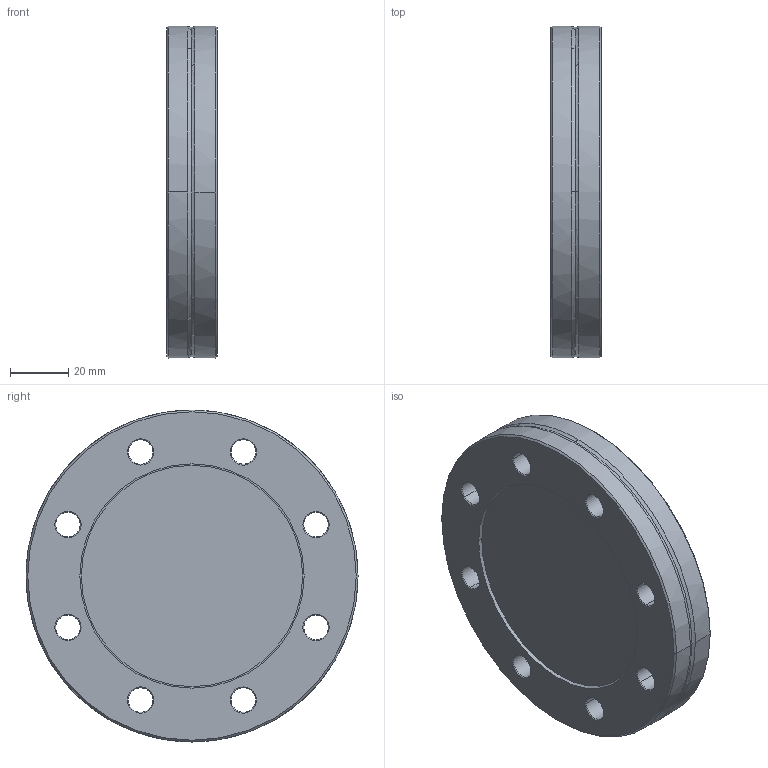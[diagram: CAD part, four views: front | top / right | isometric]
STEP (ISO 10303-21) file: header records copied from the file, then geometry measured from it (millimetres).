
FILE_DESCRIPTION((''),'2;1');
FILE_NAME('W:\214-023.stp','2004-01-23T11:32:10',('KAA'),(''),'Autodesk Inventor (R) 6.0','Autodesk Inventor (R) 6.0','');
FILE_SCHEMA(('CONFIG_CONTROL_DESIGN'));
Length unit declared in the file: millimetre
Products named in the file (1): 214-023
Bounding box: 17.5 x 114 x 114 mm (x, y, z)
Volume: 112721.6 mm3; surface area: 39911.3 mm2
Topology: 1 solids, 2 shells, 106 faces, 253 edges, 157 vertices
Faces by surface type: cone 44, bspline 20, cylinder 18, torus 14, plane 10
Entity records: 3693 total; most frequent: CARTESIAN_POINT 1053, DIRECTION 586, ORIENTED_EDGE 506, AXIS2_PLACEMENT_3D 254, EDGE_CURVE 253, CIRCLE 167, VERTEX_POINT 157, EDGE_LOOP 130
